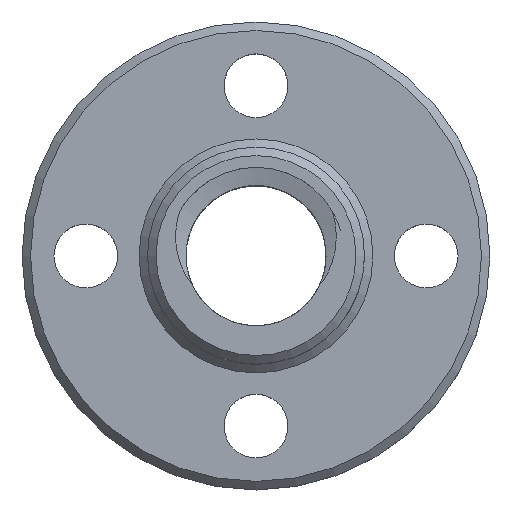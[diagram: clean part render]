
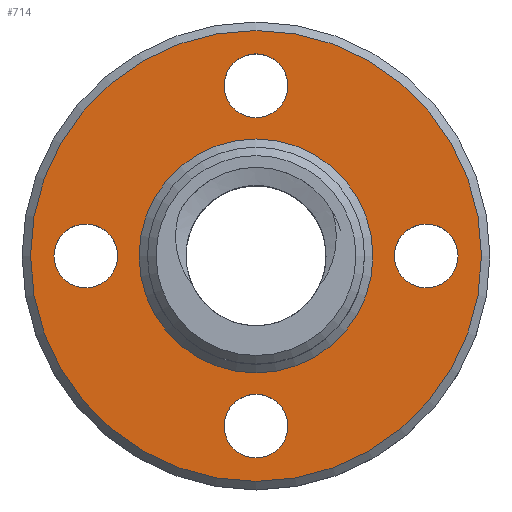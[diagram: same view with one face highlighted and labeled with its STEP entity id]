
A CAD part, top view. The second image highlights one B-rep face of the part: STEP entity #714.
In plain terms, the highlighted planar face has unit normal (0, 0, 1).
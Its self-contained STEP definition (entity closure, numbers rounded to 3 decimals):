
#24=FACE_BOUND('',#119,.T.);
#25=FACE_BOUND('',#120,.T.);
#26=FACE_BOUND('',#121,.T.);
#27=FACE_BOUND('',#122,.T.);
#28=FACE_BOUND('',#123,.T.);
#32=PLANE('',#788);
#70=FACE_OUTER_BOUND('',#118,.T.);
#118=EDGE_LOOP('',(#572));
#119=EDGE_LOOP('',(#573));
#120=EDGE_LOOP('',(#574));
#121=EDGE_LOOP('',(#575));
#122=EDGE_LOOP('',(#576));
#123=EDGE_LOOP('',(#577));
#151=CIRCLE('',#787,10.6);
#152=CIRCLE('',#789,5.5);
#153=CIRCLE('',#790,1.5);
#154=CIRCLE('',#791,1.5);
#155=CIRCLE('',#792,1.5);
#156=CIRCLE('',#793,1.5);
#333=VERTEX_POINT('',#1901);
#334=VERTEX_POINT('',#1905);
#335=VERTEX_POINT('',#1907);
#336=VERTEX_POINT('',#1909);
#337=VERTEX_POINT('',#1911);
#338=VERTEX_POINT('',#1913);
#428=EDGE_CURVE('',#333,#333,#151,.T.);
#430=EDGE_CURVE('',#334,#334,#152,.T.);
#431=EDGE_CURVE('',#335,#335,#153,.T.);
#432=EDGE_CURVE('',#336,#336,#154,.T.);
#433=EDGE_CURVE('',#337,#337,#155,.T.);
#434=EDGE_CURVE('',#338,#338,#156,.T.);
#572=ORIENTED_EDGE('',*,*,#428,.F.);
#573=ORIENTED_EDGE('',*,*,#430,.F.);
#574=ORIENTED_EDGE('',*,*,#431,.T.);
#575=ORIENTED_EDGE('',*,*,#432,.T.);
#576=ORIENTED_EDGE('',*,*,#433,.T.);
#577=ORIENTED_EDGE('',*,*,#434,.T.);
#714=ADVANCED_FACE('',(#70,#24,#25,#26,#27,#28),#32,.T.);
#787=AXIS2_PLACEMENT_3D('',#1902,#928,#929);
#788=AXIS2_PLACEMENT_3D('',#1904,#931,#932);
#789=AXIS2_PLACEMENT_3D('',#1906,#933,#934);
#790=AXIS2_PLACEMENT_3D('',#1908,#935,#936);
#791=AXIS2_PLACEMENT_3D('',#1910,#937,#938);
#792=AXIS2_PLACEMENT_3D('',#1912,#939,#940);
#793=AXIS2_PLACEMENT_3D('',#1914,#941,#942);
#928=DIRECTION('center_axis',(0.,0.,-1.));
#929=DIRECTION('ref_axis',(1.,0.,0.));
#931=DIRECTION('center_axis',(0.,0.,1.));
#932=DIRECTION('ref_axis',(1.,0.,0.));
#933=DIRECTION('center_axis',(0.,0.,1.));
#934=DIRECTION('ref_axis',(1.,0.,0.));
#935=DIRECTION('center_axis',(0.,0.,-1.));
#936=DIRECTION('ref_axis',(1.,0.,0.));
#937=DIRECTION('center_axis',(0.,0.,-1.));
#938=DIRECTION('ref_axis',(1.,0.,0.));
#939=DIRECTION('center_axis',(0.,0.,-1.));
#940=DIRECTION('ref_axis',(1.,0.,0.));
#941=DIRECTION('center_axis',(0.,0.,-1.));
#942=DIRECTION('ref_axis',(1.,0.,0.));
#1901=CARTESIAN_POINT('',(-10.6,0.,5.));
#1902=CARTESIAN_POINT('Origin',(0.,0.,5.));
#1904=CARTESIAN_POINT('Origin',(0.,0.,5.));
#1905=CARTESIAN_POINT('',(-5.5,0.,5.));
#1906=CARTESIAN_POINT('Origin',(0.,0.,5.));
#1907=CARTESIAN_POINT('',(6.5,0.,5.));
#1908=CARTESIAN_POINT('Origin',(8.,0.,
5.));
#1909=CARTESIAN_POINT('',(-1.5,-8.,5.));
#1910=CARTESIAN_POINT('Origin',(0.,-8.,
5.));
#1911=CARTESIAN_POINT('',(-1.5,8.,5.));
#1912=CARTESIAN_POINT('Origin',(0.,8.,5.));
#1913=CARTESIAN_POINT('',(-9.5,0.,5.));
#1914=CARTESIAN_POINT('Origin',(-8.,0.,
5.));
